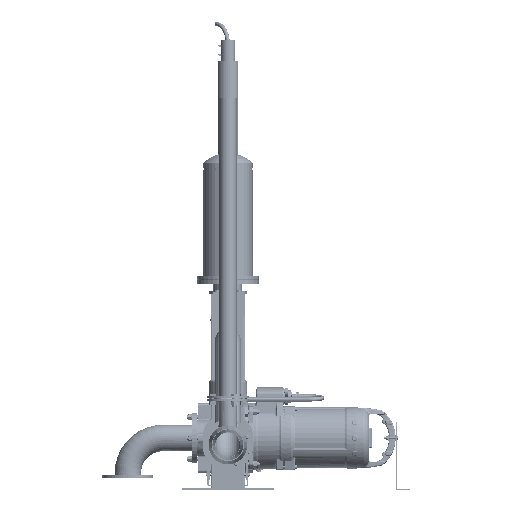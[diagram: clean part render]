
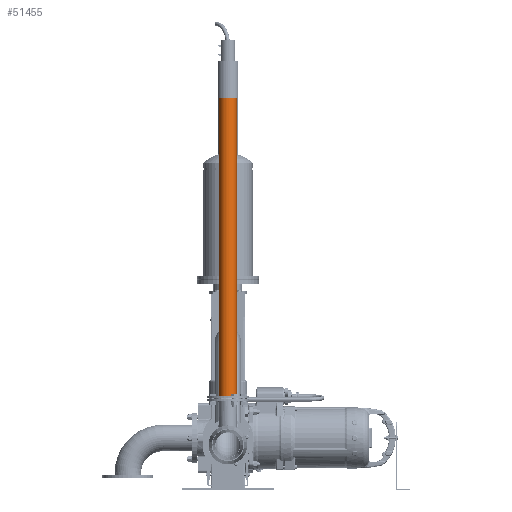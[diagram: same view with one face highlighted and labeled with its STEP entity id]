
A CAD part, left-side view. The second image highlights one B-rep face of the part: STEP entity #51455.
In plain terms, the highlighted cylindrical face has radius 38.1 mm (diameter 76.2 mm), a full revolution.
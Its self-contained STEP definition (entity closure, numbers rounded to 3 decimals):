
#8307=FACE_OUTER_BOUND('',#11698,.T.);
#11698=EDGE_LOOP('',(#37923,#37924,#37925,#37926,#37927));
#15060=LINE('',#81094,#17580);
#17580=VECTOR('',#64368,38.1);
#20289=CIRCLE('',#56389,38.1);
#20290=CIRCLE('',#56390,38.1);
#20294=CIRCLE('',#56396,38.1);
#23827=VERTEX_POINT('',#81079);
#23828=VERTEX_POINT('',#81080);
#23832=VERTEX_POINT('',#81092);
#29043=EDGE_CURVE('',#23827,#23828,#20289,.T.);
#29044=EDGE_CURVE('',#23828,#23827,#20290,.T.);
#29049=EDGE_CURVE('',#23832,#23832,#20294,.T.);
#29050=EDGE_CURVE('',#23832,#23828,#15060,.T.);
#37923=ORIENTED_EDGE('',*,*,#29049,.T.);
#37924=ORIENTED_EDGE('',*,*,#29050,.T.);
#37925=ORIENTED_EDGE('',*,*,#29044,.T.);
#37926=ORIENTED_EDGE('',*,*,#29043,.T.);
#37927=ORIENTED_EDGE('',*,*,#29050,.F.);
#50268=CYLINDRICAL_SURFACE('',#56395,38.1);
#51455=ADVANCED_FACE('',(#8307),#50268,.T.);
#56389=AXIS2_PLACEMENT_3D('',#81081,#64351,#64352);
#56390=AXIS2_PLACEMENT_3D('',#81082,#64353,#64354);
#56395=AXIS2_PLACEMENT_3D('',#81091,#64364,#64365);
#56396=AXIS2_PLACEMENT_3D('',#81093,#64366,#64367);
#64351=DIRECTION('center_axis',(0.,0.,1.));
#64352=DIRECTION('ref_axis',(1.,0.,0.));
#64353=DIRECTION('center_axis',(0.,0.,1.));
#64354=DIRECTION('ref_axis',(1.,0.,0.));
#64364=DIRECTION('center_axis',(0.,0.,1.));
#64365=DIRECTION('ref_axis',(-1.,0.,0.));
#64366=DIRECTION('center_axis',(0.,0.,-1.));
#64367=DIRECTION('ref_axis',(-1.,0.,0.));
#64368=DIRECTION('',(0.,0.,-1.));
#81079=CARTESIAN_POINT('',(-38.1,0.,-800.));
#81080=CARTESIAN_POINT('',(38.1,0.,-800.));
#81081=CARTESIAN_POINT('Origin',(0.,0.,-800.));
#81082=CARTESIAN_POINT('Origin',(0.,0.,-800.));
#81091=CARTESIAN_POINT('Origin',(0.,0.,0.));
#81092=CARTESIAN_POINT('',(38.1,0.,500.));
#81093=CARTESIAN_POINT('Origin',(0.,0.,500.));
#81094=CARTESIAN_POINT('',(38.1,0.,0.));
